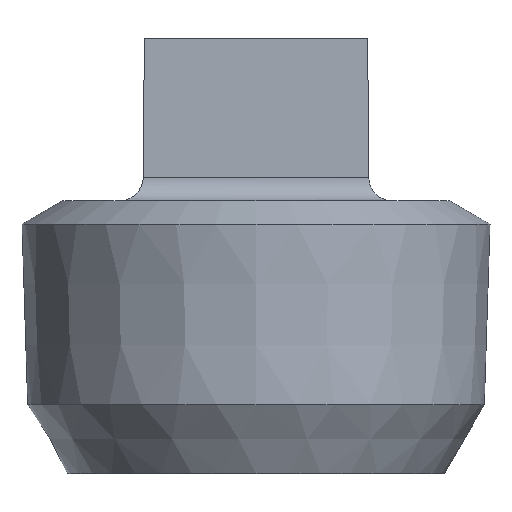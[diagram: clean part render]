
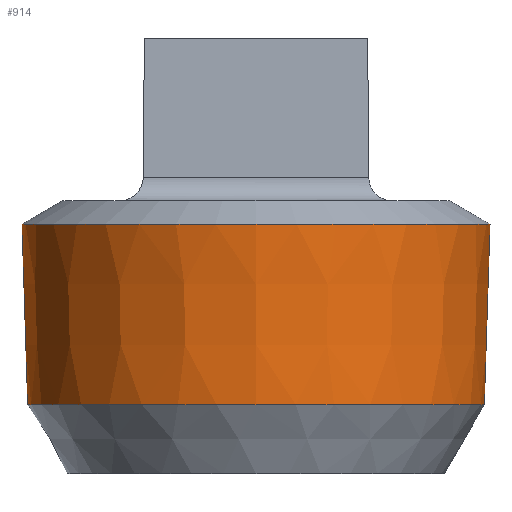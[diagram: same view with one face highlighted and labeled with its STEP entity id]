
A CAD part, front view. The second image highlights one B-rep face of the part: STEP entity #914.
In plain terms, the highlighted conical face has half-angle 1.8 degrees and reference radius 14.014 mm.
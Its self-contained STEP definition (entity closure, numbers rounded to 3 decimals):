
#840=CARTESIAN_POINT('',(13.971,0.0,-1.395));
#841=VERTEX_POINT('',#840);
#842=CARTESIAN_POINT('',(0.0,0.,-1.395));
#843=DIRECTION('',(0.0,0.0,1.0));
#844=DIRECTION('',(-1.0,0.0,0.0));
#845=AXIS2_PLACEMENT_3D('',#842,#843,#844);
#846=CIRCLE('',#845,13.971);
#847=EDGE_CURVE('',#841,#841,#846,.T.);
#895=CARTESIAN_POINT('',(0.0,0.0,0.0));
#896=DIRECTION('',(0.0,0.0,1.0));
#897=DIRECTION('',(-1.0,0.0,0.0));
#898=AXIS2_PLACEMENT_3D('',#895,#896,#897);
#899=CONICAL_SURFACE('',#898,14.015,1.8);
#900=CARTESIAN_POINT('',(13.632,0.,-12.179));
#901=VERTEX_POINT('',#900);
#902=CARTESIAN_POINT('',(0.0,0.,-12.179));
#903=DIRECTION('',(0.0,0.0,-1.0));
#904=DIRECTION('',(-1.0,0.0,0.0));
#905=AXIS2_PLACEMENT_3D('',#902,#903,#904);
#906=CIRCLE('',#905,13.632);
#907=EDGE_CURVE('',#901,#901,#906,.T.);
#908=ORIENTED_EDGE('',*,*,#907,.F.);
#909=EDGE_LOOP('',(#908));
#910=FACE_OUTER_BOUND('',#909,.T.);
#911=ORIENTED_EDGE('',*,*,#847,.F.);
#912=EDGE_LOOP('',(#911));
#913=FACE_BOUND('',#912,.T.);
#914=ADVANCED_FACE('',(#910,#913),#899,.T.);
